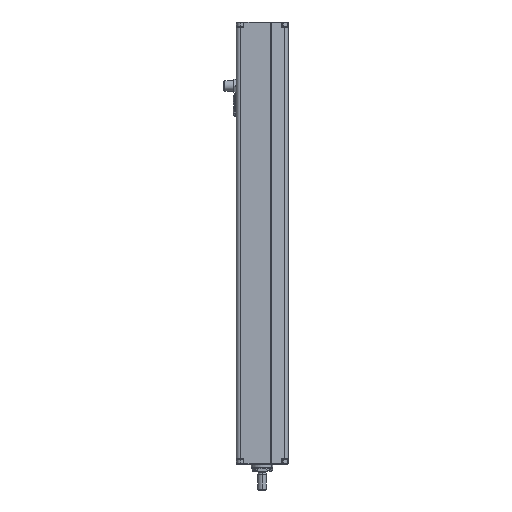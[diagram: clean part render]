
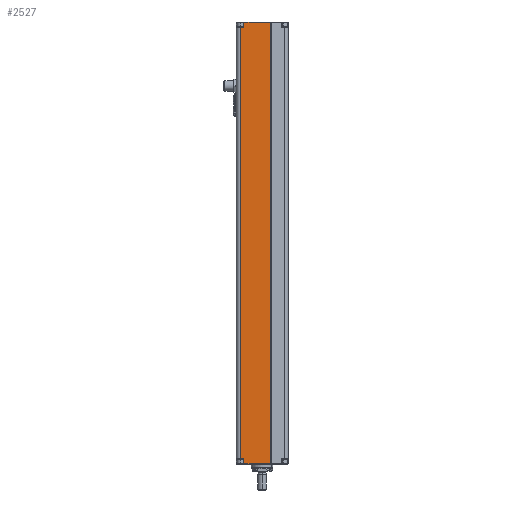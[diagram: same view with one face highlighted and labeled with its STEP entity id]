
A CAD part, left-side view. The second image highlights one B-rep face of the part: STEP entity #2527.
In plain terms, the highlighted planar face has unit normal (-1, 0, 0).
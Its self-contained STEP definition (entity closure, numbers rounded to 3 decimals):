
#119 = LINE ( 'NONE', #315, #14500 ) ;
#315 = CARTESIAN_POINT ( 'NONE',  ( -30., 21.151, 0. ) ) ;
#1004 = EDGE_CURVE ( 'NONE', #35022, #17062, #38444, .T. ) ;
#1592 = LINE ( 'NONE', #34302, #30818 ) ;
#2262 = LINE ( 'NONE', #5776, #19431 ) ;
#2512 = ORIENTED_EDGE ( 'NONE', *, *, #1004, .T. ) ;
#2527 = ADVANCED_FACE ( 'NONE', ( #15096 ), #2546, .F. ) ;
#2528 = VERTEX_POINT ( 'NONE', #33074 ) ;
#2546 = PLANE ( 'NONE',  #4926 ) ;
#2778 = CARTESIAN_POINT ( 'NONE',  ( -30., 21.151, 511.5 ) ) ;
#3290 = VERTEX_POINT ( 'NONE', #16512 ) ;
#4161 = VECTOR ( 'NONE', #17157, 1000. ) ;
#4926 = AXIS2_PLACEMENT_3D ( 'NONE', #20935, #17439, #23516 ) ;
#4941 = CARTESIAN_POINT ( 'NONE',  ( -30., 21.151, 512. ) ) ;
#5552 = CARTESIAN_POINT ( 'NONE',  ( -30., 21.151, 511.5 ) ) ;
#5776 = CARTESIAN_POINT ( 'NONE',  ( -30., 25.5, 512. ) ) ;
#6145 = EDGE_CURVE ( 'NONE', #14770, #36137, #6501, .T. ) ;
#6501 = LINE ( 'NONE', #18973, #29587 ) ;
#6604 = ORIENTED_EDGE ( 'NONE', *, *, #12657, .T. ) ;
#9794 = CARTESIAN_POINT ( 'NONE',  ( -30., 30., 0.5 ) ) ;
#10053 = CARTESIAN_POINT ( 'NONE',  ( -30., 25.5, 6.3 ) ) ;
#10801 = DIRECTION ( 'NONE',  ( 0., 0., 1. ) ) ;
#12657 = EDGE_CURVE ( 'NONE', #24789, #36137, #2262, .T. ) ;
#12694 = DIRECTION ( 'NONE',  ( 0., 0., -1. ) ) ;
#14500 = VECTOR ( 'NONE', #12694, 1000. ) ;
#14673 = ORIENTED_EDGE ( 'NONE', *, *, #26686, .T. ) ;
#14770 = VERTEX_POINT ( 'NONE', #25796 ) ;
#15096 = FACE_OUTER_BOUND ( 'NONE', #26350, .T. ) ;
#16229 = DIRECTION ( 'NONE',  ( 0., 1., 0. ) ) ;
#16512 = CARTESIAN_POINT ( 'NONE',  ( -30., 21.151, 505.7 ) ) ;
#16837 = CARTESIAN_POINT ( 'NONE',  ( -30., -9.606, 511.5 ) ) ;
#17062 = VERTEX_POINT ( 'NONE', #2778 ) ;
#17157 = DIRECTION ( 'NONE',  ( 0., 1., 0. ) ) ;
#17439 = DIRECTION ( 'NONE',  ( 1., 0., 0. ) ) ;
#18711 = VERTEX_POINT ( 'NONE', #27883 ) ;
#18769 = EDGE_CURVE ( 'NONE', #24789, #3290, #1592, .T. ) ;
#18973 = CARTESIAN_POINT ( 'NONE',  ( -30., 30., 6.3 ) ) ;
#19431 = VECTOR ( 'NONE', #32412, 1000. ) ;
#20935 = CARTESIAN_POINT ( 'NONE',  ( -30., 30., 512. ) ) ;
#22102 = ORIENTED_EDGE ( 'NONE', *, *, #38758, .T. ) ;
#22594 = LINE ( 'NONE', #4941, #33709 ) ;
#23164 = DIRECTION ( 'NONE',  ( 0., 0., -1. ) ) ;
#23516 = DIRECTION ( 'NONE',  ( 0., 0., -1. ) ) ;
#23582 = EDGE_CURVE ( 'NONE', #18711, #35022, #31730, .T. ) ;
#23766 = ORIENTED_EDGE ( 'NONE', *, *, #18769, .F. ) ;
#23913 = VECTOR ( 'NONE', #27604, 1000. ) ;
#24354 = VECTOR ( 'NONE', #10801, 1000. ) ;
#24789 = VERTEX_POINT ( 'NONE', #34960 ) ;
#25405 = LINE ( 'NONE', #9794, #23913 ) ;
#25643 = CARTESIAN_POINT ( 'NONE',  ( -30., -9.606, 512. ) ) ;
#25796 = CARTESIAN_POINT ( 'NONE',  ( -30., 21.151, 6.3 ) ) ;
#26350 = EDGE_LOOP ( 'NONE', ( #36341, #22102, #27393, #2512, #14673, #23766, #6604, #30546 ) ) ;
#26686 = EDGE_CURVE ( 'NONE', #17062, #3290, #22594, .T. ) ;
#27393 = ORIENTED_EDGE ( 'NONE', *, *, #23582, .T. ) ;
#27604 = DIRECTION ( 'NONE',  ( 0., -1., 0. ) ) ;
#27883 = CARTESIAN_POINT ( 'NONE',  ( -30., -9.606, 0.5 ) ) ;
#29587 = VECTOR ( 'NONE', #16229, 1000. ) ;
#29785 = EDGE_CURVE ( 'NONE', #14770, #2528, #119, .T. ) ;
#30546 = ORIENTED_EDGE ( 'NONE', *, *, #6145, .F. ) ;
#30818 = VECTOR ( 'NONE', #34118, 1000. ) ;
#31730 = LINE ( 'NONE', #25643, #24354 ) ;
#32412 = DIRECTION ( 'NONE',  ( 0., 0., -1. ) ) ;
#33074 = CARTESIAN_POINT ( 'NONE',  ( -30., 21.151, 0.5 ) ) ;
#33709 = VECTOR ( 'NONE', #23164, 1000. ) ;
#34118 = DIRECTION ( 'NONE',  ( 0., -1., 0. ) ) ;
#34302 = CARTESIAN_POINT ( 'NONE',  ( -30., 30., 505.7 ) ) ;
#34960 = CARTESIAN_POINT ( 'NONE',  ( -30., 25.5, 505.7 ) ) ;
#35022 = VERTEX_POINT ( 'NONE', #16837 ) ;
#36137 = VERTEX_POINT ( 'NONE', #10053 ) ;
#36341 = ORIENTED_EDGE ( 'NONE', *, *, #29785, .T. ) ;
#38444 = LINE ( 'NONE', #5552, #4161 ) ;
#38758 = EDGE_CURVE ( 'NONE', #2528, #18711, #25405, .T. ) ;
